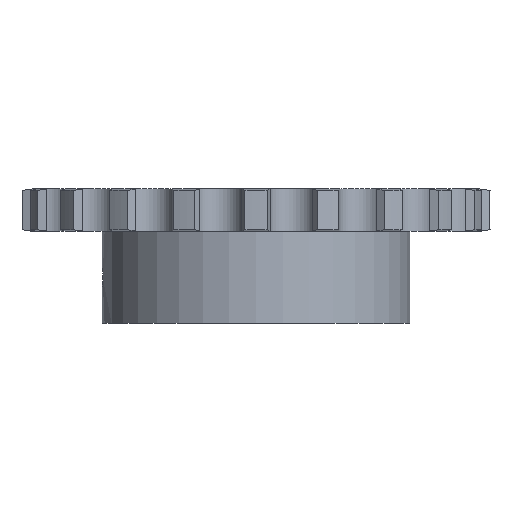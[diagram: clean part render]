
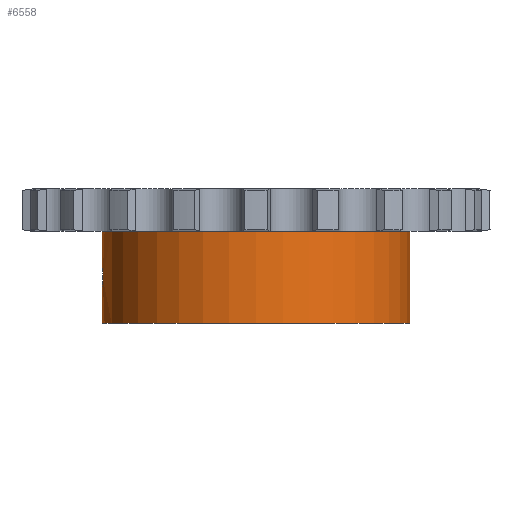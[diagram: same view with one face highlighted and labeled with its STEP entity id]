
A CAD part, front view. The second image highlights one B-rep face of the part: STEP entity #6558.
In plain terms, the highlighted cylindrical face has radius 40 mm (diameter 80 mm), a partial arc.
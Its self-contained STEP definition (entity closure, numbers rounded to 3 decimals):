
#1235=CARTESIAN_POINT('',(0.,0.,-5.55));
#1236=DIRECTION('',(0.,0.,1.));
#1237=DIRECTION('',(-1.,0.,0.));
#1238=AXIS2_PLACEMENT_3D('',#1235,#1236,#1237);
#3220=CARTESIAN_POINT('',(-40.,0.,
-14.5));
#3243=DIRECTION('',(0.,0.,1.));
#3244=VECTOR('',#3243,23.9);
#3245=CARTESIAN_POINT('',(40.,0.,-29.45));
#3246=LINE('',#3245,#3244);
#3364=CARTESIAN_POINT('',(-40.,0.,
-14.5));
#3365=CARTESIAN_POINT('',(-40.,-0.126,
-14.5));
#3366=CARTESIAN_POINT('',(-39.999,-0.405,
-14.517));
#3367=CARTESIAN_POINT('',(-39.992,-0.831,
-14.602));
#3368=CARTESIAN_POINT('',(-39.981,-1.265,
-14.758));
#3369=CARTESIAN_POINT('',(-39.966,-1.669,
-14.976));
#3370=CARTESIAN_POINT('',(-39.949,-2.033,
-15.25));
#3371=CARTESIAN_POINT('',(-39.931,-2.351,
-15.573));
#3372=CARTESIAN_POINT('',(-39.915,-2.617,
-15.94));
#3373=CARTESIAN_POINT('',(-39.9,-2.824,
-16.343));
#3374=CARTESIAN_POINT('',(-39.89,-2.967,
-16.77));
#3375=CARTESIAN_POINT('',(-39.885,-3.036,
-17.159));
#3376=CARTESIAN_POINT('',(-39.884,-3.048,
-17.402));
#3377=CARTESIAN_POINT('',(-39.884,-3.048,
-17.5));
#3382=DIRECTION('',(0.,0.,1.));
#3383=VECTOR('',#3382,8.95);
#3384=CARTESIAN_POINT('',(-40.,0.,
-14.5));
#3385=LINE('',#3384,#3383);
#3389=DIRECTION('',(0.,0.,1.));
#3390=VECTOR('',#3389,8.95);
#3391=CARTESIAN_POINT('',(-40.,0.,-29.45));
#3392=LINE('',#3391,#3390);
#3396=CARTESIAN_POINT('',(-39.884,-3.048,
-17.5));
#3397=CARTESIAN_POINT('',(-39.884,-3.048,
-17.61));
#3398=CARTESIAN_POINT('',(-39.885,-3.034,
-17.864));
#3399=CARTESIAN_POINT('',(-39.89,-2.959,
-18.263));
#3400=CARTESIAN_POINT('',(-39.901,-2.812,
-18.684));
#3401=CARTESIAN_POINT('',(-39.915,-2.603,
-19.082));
#3402=CARTESIAN_POINT('',(-39.932,-2.336,
-19.444));
#3403=CARTESIAN_POINT('',(-39.95,-2.018,
-19.762));
#3404=CARTESIAN_POINT('',(-39.966,-1.655,
-20.032));
#3405=CARTESIAN_POINT('',(-39.981,-1.254,
-20.247));
#3406=CARTESIAN_POINT('',(-39.992,-0.823,
-20.4));
#3407=CARTESIAN_POINT('',(-39.999,-0.401,
-20.483));
#3408=CARTESIAN_POINT('',(-40.,-0.125,
-20.5));
#3409=CARTESIAN_POINT('',(-40.,0.,
-20.5));
#3422=CARTESIAN_POINT('',(0.,0.,-29.45));
#3423=DIRECTION('',(0.,0.,-1.));
#3424=DIRECTION('',(1.,0.,0.));
#3425=AXIS2_PLACEMENT_3D('',#3422,#3423,#3424);
#3803=CARTESIAN_POINT('',(-40.,0.,-29.45));
#3804=CARTESIAN_POINT('',(40.,0.,-29.45));
#3805=VERTEX_POINT('',#3803);
#3806=VERTEX_POINT('',#3804);
#3807=CARTESIAN_POINT('',(40.,0.,-5.55));
#3808=VERTEX_POINT('',#3807);
#3809=CARTESIAN_POINT('',(-40.,0.,-5.55));
#3810=VERTEX_POINT('',#3809);
#4018=VERTEX_POINT('',#3220);
#4021=VERTEX_POINT('',#3377);
#4023=VERTEX_POINT('',#3409);
#6542=CARTESIAN_POINT('',(0.,0.,5.55));
#6543=DIRECTION('',(0.,0.,1.));
#6544=DIRECTION('',(1.,0.,0.));
#6545=AXIS2_PLACEMENT_3D('',#6542,#6543,#6544);
#6546=CYLINDRICAL_SURFACE('',#6545,40.);
#6547=ORIENTED_EDGE('',*,*,#6532,.F.);
#6548=ORIENTED_EDGE('',*,*,#6147,.T.);
#6549=ORIENTED_EDGE('',*,*,#5370,.T.);
#6550=ORIENTED_EDGE('',*,*,#6144,.F.);
#6552=ORIENTED_EDGE('',*,*,#6551,.T.);
#6553=ORIENTED_EDGE('',*,*,#6140,.T.);
#6555=ORIENTED_EDGE('',*,*,#6554,.F.);
#6556=EDGE_LOOP('',(#6547,#6548,#6549,#6550,#6552,#6553,#6555));
#6557=FACE_OUTER_BOUND('',#6556,.F.);
#6558=ADVANCED_FACE('',(#6557),#6546,.T.);
#1239=CIRCLE('',#1238,40.);
#3378=B_SPLINE_CURVE_WITH_KNOTS('',3,(#3364,#3365,#3366,#3367,#3368,#3369,#3370,
#3371,#3372,#3373,#3374,#3375,#3376,#3377),.UNSPECIFIED.,.F.,.F.,(4,1,1,1,1,1,1,
1,1,1,1,4),(0.,0.078,0.174,0.269,
0.364,0.459,0.555,0.65,
0.745,0.84,0.935,1.),.UNSPECIFIED.);
#3410=B_SPLINE_CURVE_WITH_KNOTS('',3,(#3396,#3397,#3398,#3399,#3400,#3401,#3402,
#3403,#3404,#3405,#3406,#3407,#3408,#3409),.UNSPECIFIED.,.F.,.F.,(4,1,1,1,1,1,1,
1,1,1,1,4),(0.,0.073,0.167,0.262,
0.356,0.45,0.545,0.639,
0.734,0.828,0.922,1.),.UNSPECIFIED.);
#3426=CIRCLE('',#3425,40.);
#5370=EDGE_CURVE('',#3810,#3808,#1239,.T.);
#6140=EDGE_CURVE('',#3805,#4023,#3392,.T.);
#6144=EDGE_CURVE('',#3806,#3808,#3246,.T.);
#6147=EDGE_CURVE('',#4018,#3810,#3385,.T.);
#6532=EDGE_CURVE('',#4018,#4021,#3378,.T.);
#6551=EDGE_CURVE('',#3806,#3805,#3426,.T.);
#6554=EDGE_CURVE('',#4021,#4023,#3410,.T.);
